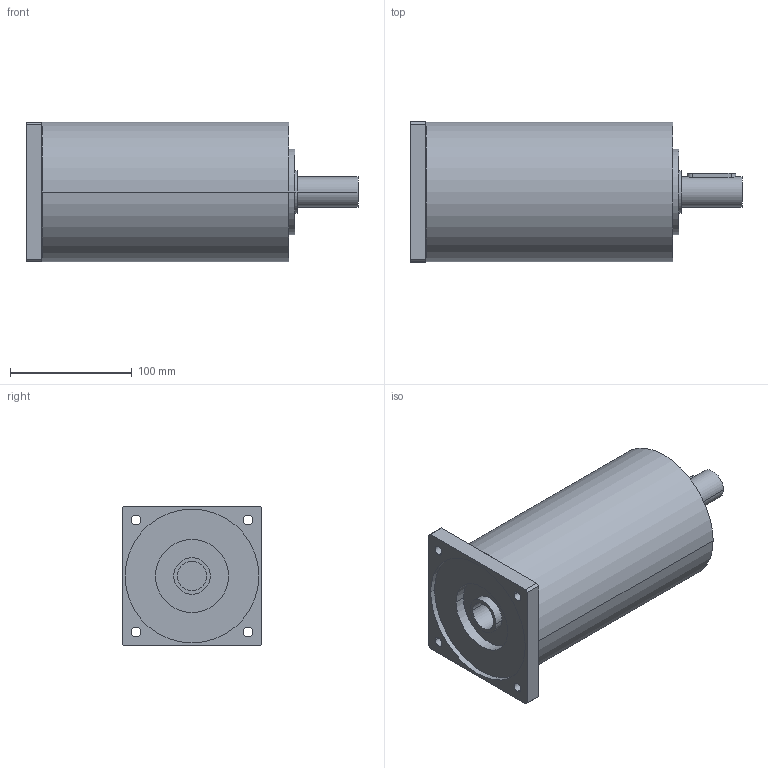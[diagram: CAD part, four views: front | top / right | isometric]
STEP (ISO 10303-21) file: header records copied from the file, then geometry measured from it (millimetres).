
FILE_DESCRIPTION(('CoCreate Modeling STEP Export'),'2;1');
FILE_NAME('GPR125_ig-48-64-80-100-140-196-245-343_25_B14_24_P13.stp','2014-08-26T14:22:33',(''),(''),'CoCreate Modeling STEP processor for AP214 (Solid Model)','CoCreate Modeling 16.00C 25-Feb-2009 (C) Parametric Technology GmbH','');
FILE_SCHEMA(('AUTOMOTIVE_DESIGN { 1 0 10303 214 1 1 1 1 }'));
Length unit declared in the file: millimetre
Products named in the file (2): GPR125_ig-48-64-80-100-140-196-245-343_25_B14_24_P13
Assembly tree (1 placements, depth 2):
  GPR125_ig-48-64-80-100-140-196-245-343_25_B14_24_P13
    GPR125_ig-48-64-80-100-140-196-245-343_25_B14_24_P13
Bounding box: 273 x 115 x 115 mm (x, y, z)
Volume: 2232077.3 mm3; surface area: 122999.9 mm2
Topology: 1 solids, 1 shells, 65 faces, 180 edges, 128 vertices
Faces by surface type: cylinder 40, plane 21, cone 4
Entity records: 1853 total; most frequent: ORIENTED_EDGE 356, CARTESIAN_POINT 351, DIRECTION 248, EDGE_CURVE 178, VERTEX_POINT 128, AXIS2_PLACEMENT_3D 93, EDGE_LOOP 86, FACE_OUTER_BOUND 65
